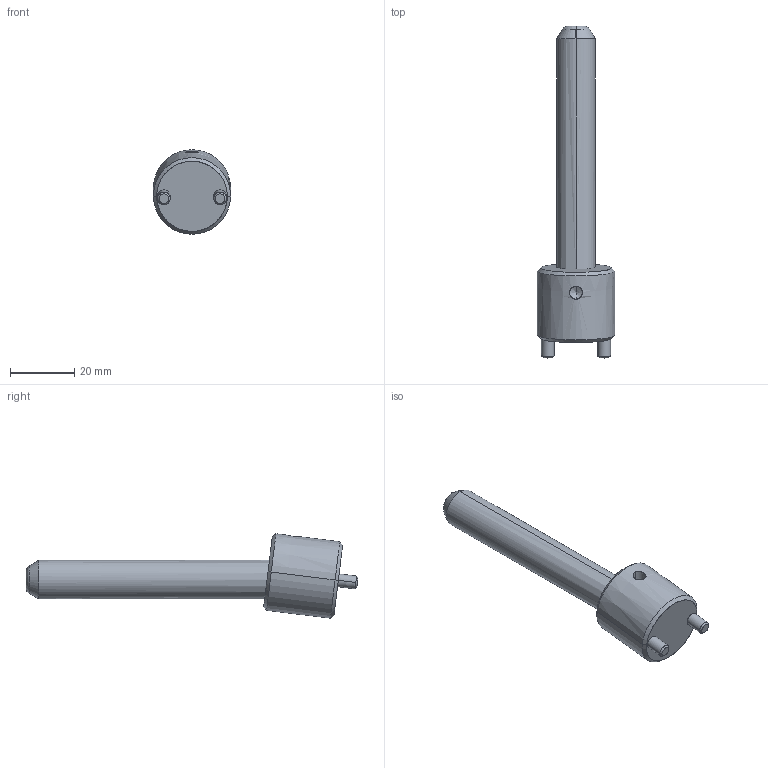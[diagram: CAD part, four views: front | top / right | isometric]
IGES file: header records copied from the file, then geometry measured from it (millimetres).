
Start section: START RECORD GO HERE.
Global section: file name: CI0712075.igs; native system: DASSAULT SYSTEMES CATIA V5 R20 - www.3ds.com; preprocessor: CATIA Version 5 Release 20 ; author: r.borello; organization: CFTORINO; date: 20190620.161628; units: millimetre
Bounding box: 24 x 103.28 x 26.26 mm (x, y, z)
Surface area: 7035.4 mm2 (no closed solid volume)
Topology: 0 solids, 0 shells, 39 faces, 162 edges, 160 vertices
Faces by surface type: revolution 32, plane 7
